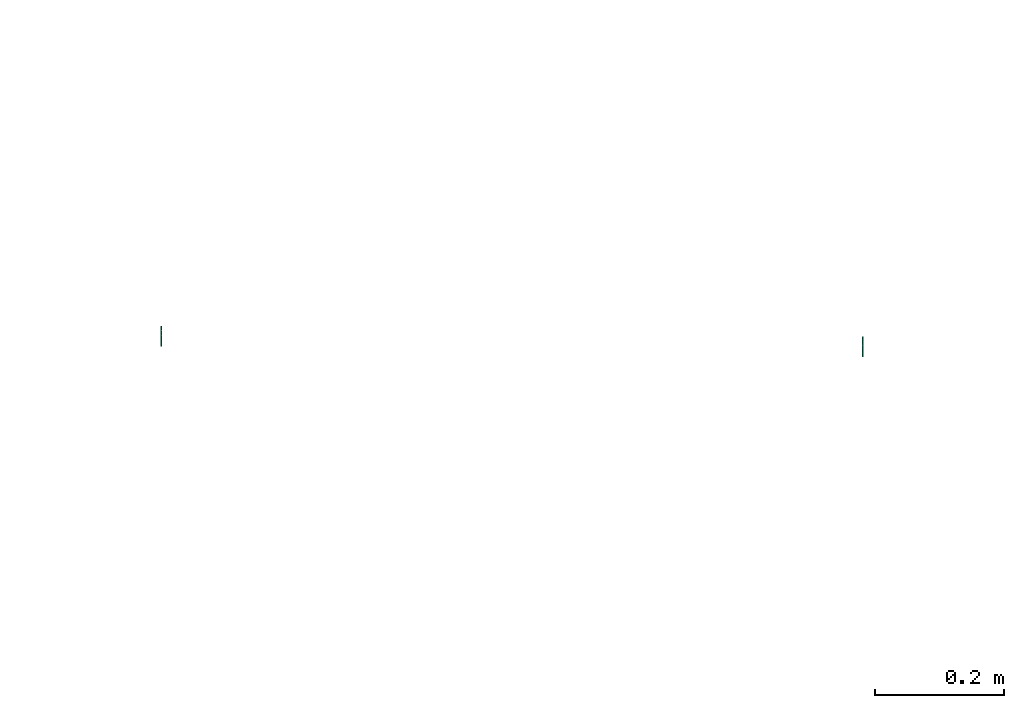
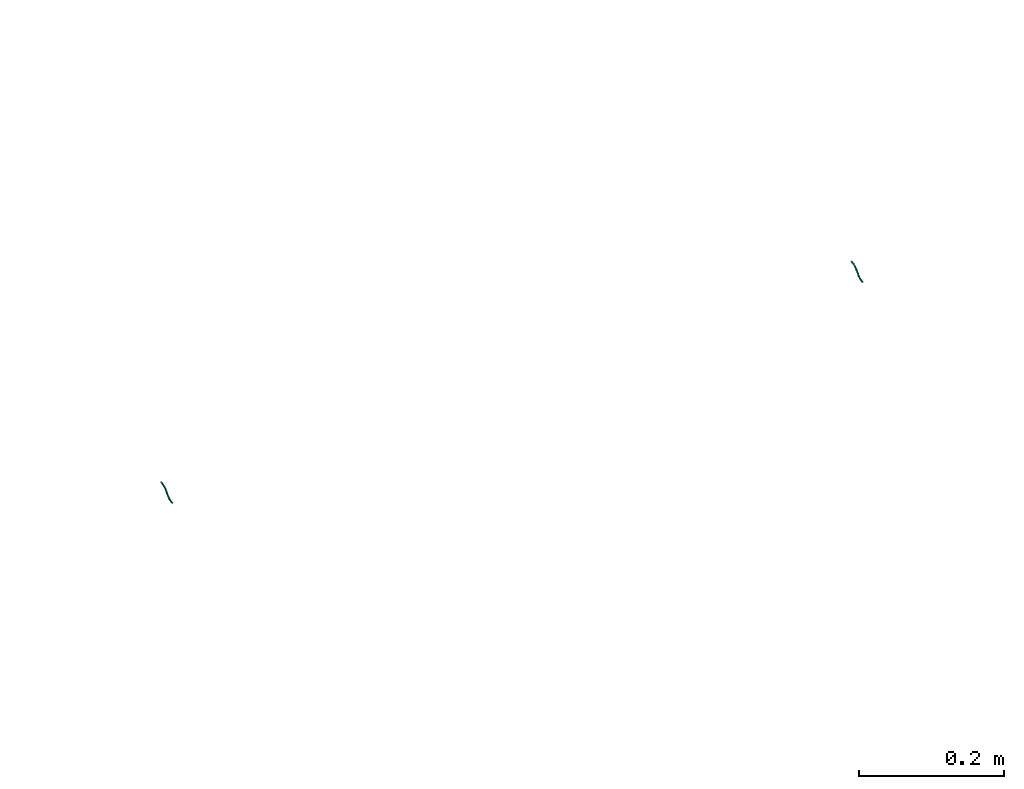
# One storey, part 46 of 197: 2 distribution control elements.
"""IFC2X3 building model written with IfcOpenShell, lengths in metres."""

from ifc_helpers import new_model, entity, si_unit, converted_unit, direction, frame, origin, place, context, subcontext, project, spatial, faceted_brep, source, transform, mapped, material, type_object, type_shapes, element, save


model = new_model("IFC2X3")

# Units and contexts
model_context = context("Model", 3, precision=1e-05, world=origin(), true_north=direction((6.123031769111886e-17, 1.0)))
body_context = subcontext(model_context, "Body", "Model", "MODEL_VIEW")
ifc_project = project(units=[si_unit("LENGTHUNIT", "METRE"), converted_unit("PLANEANGLEUNIT", "DEGREE", entity("IfcPlaneAngleMeasure", 0.017453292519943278), si_unit("PLANEANGLEUNIT", "RADIAN"), dimensions=[0, 0, 0, 0, 0, 0, 0]), si_unit("AREAUNIT", "SQUARE_METRE")], contexts=[model_context])

# Site, building, storey
site_placement = place(None, origin())
site = spatial("IfcSite", under=ifc_project, at=site_placement, Name="Default", CompositionType="ELEMENT")
building_placement = place(site_placement, origin())
building = spatial("IfcBuilding", under=site, at=building_placement, CompositionType="ELEMENT")
storey_placement = place(building_placement, origin())
storey = spatial("IfcBuildingStorey", under=building, at=storey_placement, Name="Niveau 0", CompositionType="ELEMENT", Elevation=0.0)

# Distribution control elements
ifc_material = material(Name="<Unnamed>")
alarm_type_1 = type_object("IfcAlarmType", Name="Attente incendie 50e:DAS", PredefinedType="NOTDEFINED", material=ifc_material)
shared_shape_1 = source(origin(), body_context, "Body", "Brep", [
    faceted_brep([(0.00015679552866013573, 0.02468901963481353, 0.0071236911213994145), (-0.0008432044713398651, 0.024606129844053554, 0.00812024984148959), (0.00015679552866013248, 0.024523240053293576, 0.009116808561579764), (0.0011567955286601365, 0.024606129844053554, 0.008120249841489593), (0.0010682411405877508, 0.020307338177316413, 0.007781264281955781), (0.0001567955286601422, 0.020902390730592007, 0.005938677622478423), (0.0011263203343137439, 0.017575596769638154, 0.006150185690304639), (0.0001567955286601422, 0.015326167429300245, 0.00419361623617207), (0.00015679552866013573, 0.020007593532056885, 0.005658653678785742), (0.00015679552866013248, 0.014326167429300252, 0.005925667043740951), (0.0009522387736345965, 0.011698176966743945, 0.0036743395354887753), (0.0009420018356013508, 0.015917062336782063, 0.006344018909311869), (0.00015679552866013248, 0.010395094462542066, 0.0023079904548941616), (0.00015679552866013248, 0.009383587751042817, 0.0013771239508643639), (0.00015679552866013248, 0.006464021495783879, -0.00130968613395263), (0.0006567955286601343, 0.006874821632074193, -0.0015947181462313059), (0.0011567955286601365, 0.007285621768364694, -0.0018797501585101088), (0.0001567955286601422, 0.008107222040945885, -0.002449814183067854), (0.0010477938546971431, 0.01190066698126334, 0.002476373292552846), (0.0001567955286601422, 0.011716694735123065, 0.000871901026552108), (0.00015679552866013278, 0.020736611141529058, 0.007931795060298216), (0.00015679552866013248, 0.01942470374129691, 0.0075212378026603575), (-0.000613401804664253, 0.017791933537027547, 0.005814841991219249), (-0.0008432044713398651, 0.007285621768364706, -0.0018797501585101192), (-0.0006561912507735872, 0.013063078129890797, 0.003217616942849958), (-0.0007811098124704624, 0.017711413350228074, 0.006845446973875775), (-0.000757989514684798, 0.011606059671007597, 0.0033430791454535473), (0.00015679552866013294, -0.006217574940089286, -0.0072232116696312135), (-0.0008432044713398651, -0.006308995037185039, -0.00821902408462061), (-0.00022603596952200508, -0.006365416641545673, -0.00883360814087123), (0.00015679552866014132, -0.006400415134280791, -0.009214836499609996), (0.0011567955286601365, -0.006308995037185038, -0.008219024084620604), (0.0005396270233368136, -0.006252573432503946, -0.0076044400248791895), (0.0001567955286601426, 0.00342572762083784, -0.0063951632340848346), (0.0008639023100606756, 0.004493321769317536, -0.005806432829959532), (0.0009254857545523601, 0.0019625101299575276, -0.007298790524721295), (0.00015679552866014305, -0.002505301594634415, -0.008536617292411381), (0.00015679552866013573, 0.00493736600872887, -0.005121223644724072), (0.00015679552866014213, 0.005083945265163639, -0.0049976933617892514), (0.00015679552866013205, -0.002322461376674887, -0.006544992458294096), (0.00015679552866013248, -0.002647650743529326, -0.006601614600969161), (0.0009203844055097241, 0.004301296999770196, -0.0042243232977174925), (0.00015679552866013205, 0.0036931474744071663, -0.003644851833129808), (0.00015679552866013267, 0.0034407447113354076, -0.0038575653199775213), (0.00015679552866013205, 0.0009222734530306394, -0.005980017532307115), (0.0010089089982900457, -0.0014622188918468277, -0.008405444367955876), (0.001064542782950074, -0.00036395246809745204, -0.0071166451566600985), (0.0011567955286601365, 0.003257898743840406, -0.0058162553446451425), (0.00015679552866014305, 0.0017675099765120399, -0.007792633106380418), (0.001078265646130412, -0.0034805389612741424, -0.007818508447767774), (0.0011516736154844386, 0.005514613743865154, -0.004127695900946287), (-0.0006872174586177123, 0.004983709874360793, -0.0037543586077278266), (-0.0008432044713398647, 0.0028123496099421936, -0.006099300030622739), (-0.0006218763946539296, -0.0034380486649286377, -0.008835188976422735), (-0.0008173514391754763, -0.003105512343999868, -0.007939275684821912), (-0.0007245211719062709, -0.0005251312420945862, -0.008103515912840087), (-0.000725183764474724, 0.005518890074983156, -0.004634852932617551), (-0.0006856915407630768, -0.0001638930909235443, -0.006921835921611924)], [[[0, 1, 2, 3]], [[2, 4, 3]], [[3, 5, 0]], [[6, 5, 3]], [[6, 7, 8, 5]], [[9, 10, 11]], [[10, 9, 12, 13]], [[13, 14, 15, 16]], [[16, 10, 13]], [[17, 18, 16]], [[18, 17, 19, 7]], [[11, 10, 18]], [[6, 18, 7]], [[11, 18, 6]], [[10, 16, 18]], [[4, 6, 3]], [[4, 11, 6]], [[4, 2, 20, 21]], [[21, 9, 11]], [[21, 11, 4]], [[22, 1, 0]], [[23, 24, 19]], [[25, 9, 21, 20]], [[25, 20, 1]], [[7, 24, 22]], [[25, 24, 26]], [[24, 7, 19]], [[24, 23, 26]], [[23, 12, 26]], [[20, 2, 1]], [[25, 22, 24]], [[9, 25, 26]], [[17, 23, 19]], [[1, 22, 25]], [[22, 0, 5, 8, 7]], [[23, 14, 13, 12]], [[12, 9, 26]], [[27, 28, 29, 30, 31, 32]], [[33, 34, 35]], [[31, 30, 36]], [[34, 33, 37, 38]], [[32, 39, 40, 27]], [[41, 14, 42, 43, 44]], [[45, 31, 36]], [[44, 46, 47]], [[39, 46, 44]], [[48, 33, 35]], [[15, 14, 41]], [[35, 46, 45]], [[49, 32, 31]], [[45, 46, 49]], [[16, 50, 17]], [[32, 49, 39]], [[39, 49, 46]], [[31, 45, 49]], [[48, 45, 36]], [[47, 35, 34]], [[50, 38, 17]], [[50, 47, 34]], [[46, 35, 47]], [[45, 48, 35]], [[50, 34, 38]], [[41, 47, 50]], [[50, 16, 15]], [[47, 41, 44]], [[15, 41, 50]], [[43, 51, 52]], [[51, 14, 23]], [[43, 52, 44]], [[53, 54, 55]], [[56, 17, 38, 37, 33, 48]], [[54, 53, 28]], [[48, 55, 52]], [[52, 55, 57]], [[56, 52, 51]], [[52, 57, 44]], [[54, 57, 55]], [[48, 36, 55]], [[40, 57, 54]], [[36, 30, 29]], [[54, 27, 40]], [[57, 40, 39, 44]], [[54, 28, 27]], [[53, 55, 36]], [[36, 29, 53]], [[28, 53, 29]], [[51, 43, 42, 14]], [[52, 56, 48]], [[56, 51, 23]], [[17, 56, 23]]]),
])
type_shapes(alarm_type_1, [shared_shape_1])
distribution_control_element_1_placement = place(storey_placement, frame((-515.042595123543, -25.894578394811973, 0.0)))
element("IfcDistributionControlElement", 1, at=distribution_control_element_1_placement, inside=storey, type_object=alarm_type_1, material=ifc_material, Name="Attente incendie 50e:DAS", ObjectType="Attente incendie 50e:DAS", context=body_context, shape_type="MappedRepresentation", body=[
    mapped(shared_shape_1, transform((0.0, 0.0, 0.0), scale=1.0)),
])
alarm_type_2 = type_object("IfcAlarmType", Name="Attente incendie 50e:DESENFUMAGE", PredefinedType="NOTDEFINED", material=ifc_material)
shared_shape_2 = source(origin(), body_context, "Body", "Brep", [
    faceted_brep([(0.00015679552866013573, 0.02468901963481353, 0.0071236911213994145), (-0.0008432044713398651, 0.024606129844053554, 0.00812024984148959), (0.00015679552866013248, 0.024523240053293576, 0.009116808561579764), (0.0011567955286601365, 0.024606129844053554, 0.008120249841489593), (0.0010682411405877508, 0.020307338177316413, 0.007781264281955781), (0.0001567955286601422, 0.020902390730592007, 0.005938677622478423), (0.0011263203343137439, 0.017575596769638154, 0.006150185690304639), (0.0001567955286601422, 0.015326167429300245, 0.00419361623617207), (0.00015679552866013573, 0.020007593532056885, 0.005658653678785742), (0.00015679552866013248, 0.014326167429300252, 0.005925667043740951), (0.0009522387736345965, 0.011698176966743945, 0.0036743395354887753), (0.0009420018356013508, 0.015917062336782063, 0.006344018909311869), (0.00015679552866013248, 0.010395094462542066, 0.0023079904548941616), (0.00015679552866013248, 0.009383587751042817, 0.0013771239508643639), (0.00015679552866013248, 0.006464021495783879, -0.00130968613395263), (0.0006567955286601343, 0.006874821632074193, -0.0015947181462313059), (0.0011567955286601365, 0.007285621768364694, -0.0018797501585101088), (0.0001567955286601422, 0.008107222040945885, -0.002449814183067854), (0.0010477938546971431, 0.01190066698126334, 0.002476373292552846), (0.0001567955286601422, 0.011716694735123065, 0.000871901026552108), (0.00015679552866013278, 0.020736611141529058, 0.007931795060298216), (0.00015679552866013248, 0.01942470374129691, 0.0075212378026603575), (-0.000613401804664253, 0.017791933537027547, 0.005814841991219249), (-0.0008432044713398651, 0.007285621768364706, -0.0018797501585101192), (-0.0006561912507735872, 0.013063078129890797, 0.003217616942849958), (-0.0007811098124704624, 0.017711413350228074, 0.006845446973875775), (-0.000757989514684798, 0.011606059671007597, 0.0033430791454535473), (0.00015679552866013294, -0.006217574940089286, -0.0072232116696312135), (-0.0008432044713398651, -0.006308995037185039, -0.00821902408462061), (-0.00022603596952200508, -0.006365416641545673, -0.00883360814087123), (0.00015679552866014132, -0.006400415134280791, -0.009214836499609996), (0.0011567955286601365, -0.006308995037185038, -0.008219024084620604), (0.0005396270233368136, -0.006252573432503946, -0.0076044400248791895), (0.0001567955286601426, 0.00342572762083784, -0.0063951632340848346), (0.0008639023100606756, 0.004493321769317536, -0.005806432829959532), (0.0009254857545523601, 0.0019625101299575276, -0.007298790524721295), (0.00015679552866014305, -0.002505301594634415, -0.008536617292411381), (0.00015679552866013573, 0.00493736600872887, -0.005121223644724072), (0.00015679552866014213, 0.005083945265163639, -0.0049976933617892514), (0.00015679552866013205, -0.002322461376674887, -0.006544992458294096), (0.00015679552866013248, -0.002647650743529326, -0.006601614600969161), (0.0009203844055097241, 0.004301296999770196, -0.0042243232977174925), (0.00015679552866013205, 0.0036931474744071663, -0.003644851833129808), (0.00015679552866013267, 0.0034407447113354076, -0.0038575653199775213), (0.00015679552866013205, 0.0009222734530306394, -0.005980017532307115), (0.0010089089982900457, -0.0014622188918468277, -0.008405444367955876), (0.001064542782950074, -0.00036395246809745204, -0.0071166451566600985), (0.0011567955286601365, 0.003257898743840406, -0.0058162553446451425), (0.00015679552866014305, 0.0017675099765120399, -0.007792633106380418), (0.001078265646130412, -0.0034805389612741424, -0.007818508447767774), (0.0011516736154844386, 0.005514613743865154, -0.004127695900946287), (-0.0006872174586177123, 0.004983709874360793, -0.0037543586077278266), (-0.0008432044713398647, 0.0028123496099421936, -0.006099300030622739), (-0.0006218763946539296, -0.0034380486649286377, -0.008835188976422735), (-0.0008173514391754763, -0.003105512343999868, -0.007939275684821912), (-0.0007245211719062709, -0.0005251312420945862, -0.008103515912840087), (-0.000725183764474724, 0.005518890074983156, -0.004634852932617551), (-0.0006856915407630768, -0.0001638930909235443, -0.006921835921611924)], [[[0, 1, 2, 3]], [[2, 4, 3]], [[3, 5, 0]], [[6, 5, 3]], [[6, 7, 8, 5]], [[9, 10, 11]], [[10, 9, 12, 13]], [[13, 14, 15, 16]], [[16, 10, 13]], [[17, 18, 16]], [[18, 17, 19, 7]], [[11, 10, 18]], [[6, 18, 7]], [[11, 18, 6]], [[10, 16, 18]], [[4, 6, 3]], [[4, 11, 6]], [[4, 2, 20, 21]], [[21, 9, 11]], [[21, 11, 4]], [[22, 1, 0]], [[23, 24, 19]], [[25, 9, 21, 20]], [[25, 20, 1]], [[7, 24, 22]], [[25, 24, 26]], [[24, 7, 19]], [[24, 23, 26]], [[23, 12, 26]], [[20, 2, 1]], [[25, 22, 24]], [[9, 25, 26]], [[17, 23, 19]], [[1, 22, 25]], [[22, 0, 5, 8, 7]], [[23, 14, 13, 12]], [[12, 9, 26]], [[27, 28, 29, 30, 31, 32]], [[33, 34, 35]], [[31, 30, 36]], [[34, 33, 37, 38]], [[32, 39, 40, 27]], [[41, 14, 42, 43, 44]], [[45, 31, 36]], [[44, 46, 47]], [[39, 46, 44]], [[48, 33, 35]], [[15, 14, 41]], [[35, 46, 45]], [[49, 32, 31]], [[45, 46, 49]], [[16, 50, 17]], [[32, 49, 39]], [[39, 49, 46]], [[31, 45, 49]], [[48, 45, 36]], [[47, 35, 34]], [[50, 38, 17]], [[50, 47, 34]], [[46, 35, 47]], [[45, 48, 35]], [[50, 34, 38]], [[41, 47, 50]], [[50, 16, 15]], [[47, 41, 44]], [[15, 41, 50]], [[43, 51, 52]], [[51, 14, 23]], [[43, 52, 44]], [[53, 54, 55]], [[56, 17, 38, 37, 33, 48]], [[54, 53, 28]], [[48, 55, 52]], [[52, 55, 57]], [[56, 52, 51]], [[52, 57, 44]], [[54, 57, 55]], [[48, 36, 55]], [[40, 57, 54]], [[36, 30, 29]], [[54, 27, 40]], [[57, 40, 39, 44]], [[54, 28, 27]], [[53, 55, 36]], [[36, 29, 53]], [[28, 53, 29]], [[51, 43, 42, 14]], [[52, 56, 48]], [[56, 51, 23]], [[17, 56, 23]]]),
])
type_shapes(alarm_type_2, [shared_shape_2])
distribution_control_element_2_placement = place(storey_placement, frame((-513.951595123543, -25.911115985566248, 0.0)))
element("IfcDistributionControlElement", 2, at=distribution_control_element_2_placement, inside=storey, type_object=alarm_type_2, material=ifc_material, Name="Attente incendie 50e:DESENFUMAGE", ObjectType="Attente incendie 50e:DESENFUMAGE", context=body_context, shape_type="MappedRepresentation", body=[
    mapped(shared_shape_2, transform((0.0, 0.0, 0.0), scale=1.0)),
])

save(model, "model.ifc")
